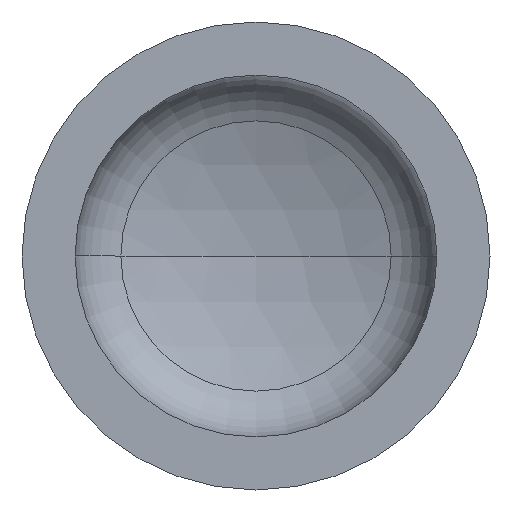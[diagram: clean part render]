
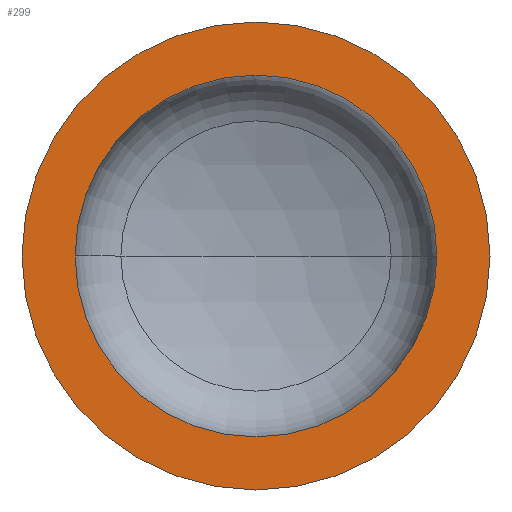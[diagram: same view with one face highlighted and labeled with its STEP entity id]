
A CAD part, front view. The second image highlights one B-rep face of the part: STEP entity #299.
In plain terms, the highlighted planar face has unit normal (0, -1, 0).
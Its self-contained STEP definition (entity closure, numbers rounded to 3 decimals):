
#5 = AXIS2_PLACEMENT_3D ( 'NONE', #334, #28, #286 ) ;
#8 = EDGE_LOOP ( 'NONE', ( #115, #64 ) ) ;
#14 = VERTEX_POINT ( 'NONE', #287 ) ;
#25 = AXIS2_PLACEMENT_3D ( 'NONE', #147, #168, #284 ) ;
#28 = DIRECTION ( 'NONE',  ( 0., -1., 0. ) ) ;
#29 = AXIS2_PLACEMENT_3D ( 'NONE', #279, #389, #309 ) ;
#51 = ORIENTED_EDGE ( 'NONE', *, *, #364, .F. ) ;
#61 = EDGE_LOOP ( 'NONE', ( #90, #51 ) ) ;
#63 = CIRCLE ( 'NONE', #5, 300. ) ;
#64 = ORIENTED_EDGE ( 'NONE', *, *, #109, .T. ) ;
#83 = CIRCLE ( 'NONE', #93, 300. ) ;
#86 = AXIS2_PLACEMENT_3D ( 'NONE', #344, #342, #349 ) ;
#90 = ORIENTED_EDGE ( 'NONE', *, *, #112, .F. ) ;
#93 = AXIS2_PLACEMENT_3D ( 'NONE', #321, #319, #187 ) ;
#109 = EDGE_CURVE ( 'NONE', #14, #110, #83, .T. ) ;
#110 = VERTEX_POINT ( 'NONE', #257 ) ;
#112 = EDGE_CURVE ( 'NONE', #144, #320, #312, .T. ) ;
#115 = ORIENTED_EDGE ( 'NONE', *, *, #390, .T. ) ;
#144 = VERTEX_POINT ( 'NONE', #293 ) ;
#147 = CARTESIAN_POINT ( 'NONE',  ( -300., 0., 0. ) ) ;
#158 = CARTESIAN_POINT ( 'NONE',  ( -232., 0., 0. ) ) ;
#168 = DIRECTION ( 'NONE',  ( 0., 1., 0. ) ) ;
#171 = PLANE ( 'NONE',  #25 ) ;
#187 = DIRECTION ( 'NONE',  ( 1., 0., 0. ) ) ;
#209 = FACE_BOUND ( 'NONE', #61, .T. ) ;
#257 = CARTESIAN_POINT ( 'NONE',  ( 300., 0., 0. ) ) ;
#270 = CIRCLE ( 'NONE', #29, 232. ) ;
#279 = CARTESIAN_POINT ( 'NONE',  ( 0., 0., 0. ) ) ;
#284 = DIRECTION ( 'NONE',  ( -1., 0., 0. ) ) ;
#286 = DIRECTION ( 'NONE',  ( 1., 0., 0. ) ) ;
#287 = CARTESIAN_POINT ( 'NONE',  ( -300., 0., 0. ) ) ;
#293 = CARTESIAN_POINT ( 'NONE',  ( 232., 0., 0. ) ) ;
#299 = ADVANCED_FACE ( 'NONE', ( #209, #386 ), #171, .F. ) ;
#309 = DIRECTION ( 'NONE',  ( 1., 0., 0. ) ) ;
#312 = CIRCLE ( 'NONE', #86, 232. ) ;
#319 = DIRECTION ( 'NONE',  ( 0., -1., 0. ) ) ;
#320 = VERTEX_POINT ( 'NONE', #158 ) ;
#321 = CARTESIAN_POINT ( 'NONE',  ( 0., 0., 0. ) ) ;
#334 = CARTESIAN_POINT ( 'NONE',  ( 0., 0., 0. ) ) ;
#342 = DIRECTION ( 'NONE',  ( 0., -1., 0. ) ) ;
#344 = CARTESIAN_POINT ( 'NONE',  ( 0., 0., 0. ) ) ;
#349 = DIRECTION ( 'NONE',  ( 1., 0., 0. ) ) ;
#364 = EDGE_CURVE ( 'NONE', #320, #144, #270, .T. ) ;
#386 = FACE_OUTER_BOUND ( 'NONE', #8, .T. ) ;
#389 = DIRECTION ( 'NONE',  ( 0., -1., 0. ) ) ;
#390 = EDGE_CURVE ( 'NONE', #110, #14, #63, .T. ) ;
